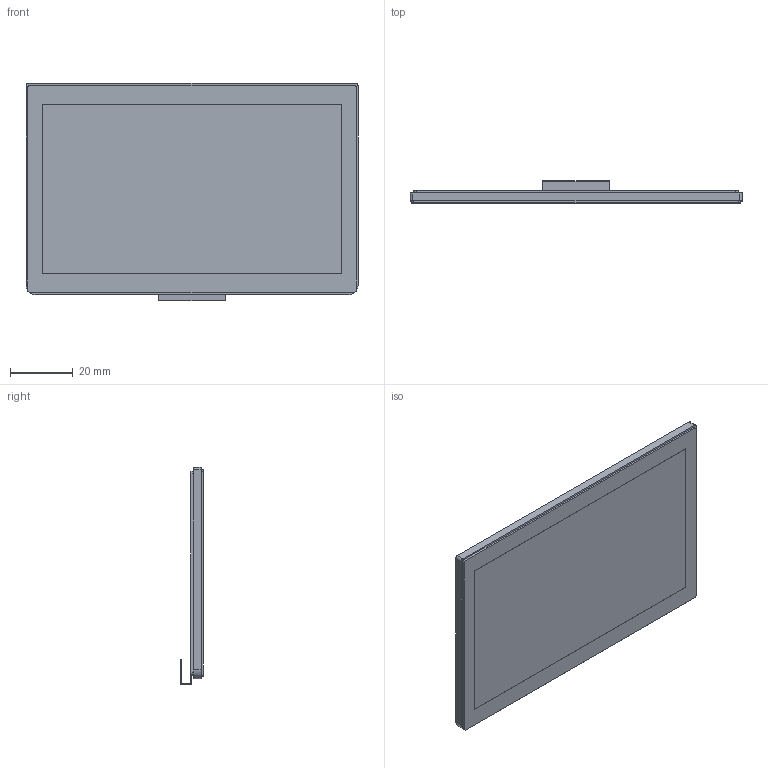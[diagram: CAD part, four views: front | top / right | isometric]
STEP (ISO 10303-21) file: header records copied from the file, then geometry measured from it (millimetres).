
FILE_DESCRIPTION(('Open CASCADE Model'),'2;1');
FILE_NAME('Open CASCADE Shape Model','2026-11-01T16:33:54',('Author'),( 'Open CASCADE'),'Open CASCADE STEP processor 8.0','build123d', 'Unknown');
FILE_SCHEMA(('AUTOMOTIVE_DESIGN { 1 0 10303 214 1 1 1 1 }'));
Length unit declared in the file: millimetre
Products named in the file (1): SOLID
Bounding box: 105.5 x 7.2 x 69.05 mm (x, y, z)
Volume: 27437.9 mm3; surface area: 16156.2 mm2
Topology: 1 solids, 1 shells, 41 faces, 108 edges, 72 vertices
Faces by surface type: plane 31, cylinder 10
Entity records: 2617 total; most frequent: CARTESIAN_POINT 510, DIRECTION 365, ORIENTED_EDGE 216, PCURVE 216, DEFINITIONAL_REPRESENTATION 216, LINE 210, VECTOR 210, EDGE_CURVE 108
